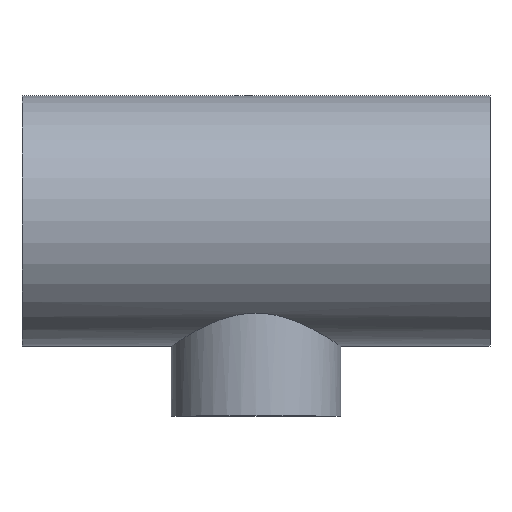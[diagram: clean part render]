
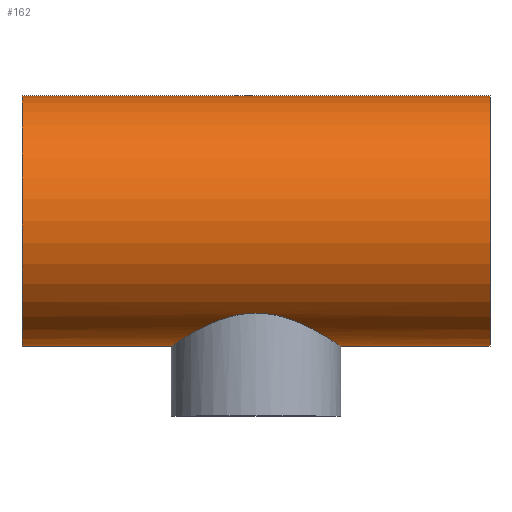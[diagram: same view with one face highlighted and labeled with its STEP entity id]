
A CAD part, top view. The second image highlights one B-rep face of the part: STEP entity #162.
In plain terms, the highlighted cylindrical face has radius 45 mm (diameter 90 mm), a full revolution.
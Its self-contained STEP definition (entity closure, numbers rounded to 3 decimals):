
#16=B_SPLINE_CURVE_WITH_KNOTS('',3,(#344,#345,#346,#347,#348,#349,#350,
#351,#352,#353,#354,#355,#356,#357,#358,#359,#360,#361,#362,#363,#364,#365,
#366,#367,#368,#369,#370,#371,#372,#373,#374,#375,#376,#377,#378,#379,#380,
#381,#382,#383,#384,#385,#386,#387,#388,#389,#390,#391,#392,#393,#394,#395,
#396,#397,#398,#399,#400,#401,#402,#403,#404,#405,#406,#407,#408,#409),
 .UNSPECIFIED.,.T.,.F.,(4,2,2,2,2,2,2,2,2,2,2,2,2,2,2,2,2,2,2,2,2,2,2,2,
2,2,2,2,2,2,2,2,4),(0.,0.603,1.206,1.809,
2.412,3.008,3.604,4.2,4.796,
5.391,5.987,6.583,7.179,7.782,
8.385,8.988,9.591,10.194,10.797,
11.4,12.003,12.599,13.195,13.791,
14.387,14.982,15.578,16.174,16.77,
17.373,17.976,18.579,19.182),
 .UNSPECIFIED.);
#32=FACE_BOUND('',#69,.T.);
#33=FACE_BOUND('',#70,.T.);
#46=FACE_OUTER_BOUND('',#68,.T.);
#68=EDGE_LOOP('',(#136));
#69=EDGE_LOOP('',(#137));
#70=EDGE_LOOP('',(#138));
#88=CIRCLE('',#187,45.);
#89=CIRCLE('',#188,45.);
#101=VERTEX_POINT('',#341);
#102=VERTEX_POINT('',#343);
#103=VERTEX_POINT('',#410);
#115=EDGE_CURVE('',#101,#101,#88,.T.);
#116=EDGE_CURVE('',#102,#102,#16,.T.);
#117=EDGE_CURVE('',#103,#103,#89,.T.);
#136=ORIENTED_EDGE('',*,*,#115,.F.);
#137=ORIENTED_EDGE('',*,*,#116,.T.);
#138=ORIENTED_EDGE('',*,*,#117,.F.);
#152=CYLINDRICAL_SURFACE('',#186,45.);
#162=ADVANCED_FACE('',(#46,#32,#33),#152,.T.);
#186=AXIS2_PLACEMENT_3D('',#340,#230,#231);
#187=AXIS2_PLACEMENT_3D('',#342,#232,#233);
#188=AXIS2_PLACEMENT_3D('',#411,#234,#235);
#230=DIRECTION('center_axis',(1.,0.,0.));
#231=DIRECTION('ref_axis',(0.,-1.,0.));
#232=DIRECTION('center_axis',(-1.,0.,0.));
#233=DIRECTION('ref_axis',(0.,-1.,0.));
#234=DIRECTION('center_axis',(1.,0.,0.));
#235=DIRECTION('ref_axis',(0.,-1.,0.));
#340=CARTESIAN_POINT('Origin',(0.,0.,0.));
#341=CARTESIAN_POINT('',(-84.,45.,0.));
#342=CARTESIAN_POINT('Origin',(-84.,0.,0.));
#343=CARTESIAN_POINT('',(0.,-33.087,30.5));
#344=CARTESIAN_POINT('Ctrl Pts',(0.,-33.087,
30.5));
#345=CARTESIAN_POINT('Ctrl Pts',(2.01,-33.087,30.5));
#346=CARTESIAN_POINT('Ctrl Pts',(4.049,-33.276,30.299));
#347=CARTESIAN_POINT('Ctrl Pts',(8.045,-33.994,29.49));
#348=CARTESIAN_POINT('Ctrl Pts',(10.002,-34.521,28.884));
#349=CARTESIAN_POINT('Ctrl Pts',(13.72,-35.776,27.314));
#350=CARTESIAN_POINT('Ctrl Pts',(15.486,-36.503,26.35));
#351=CARTESIAN_POINT('Ctrl Pts',(18.747,-38.001,24.139));
#352=CARTESIAN_POINT('Ctrl Pts',(20.241,-38.771,22.893));
#353=CARTESIAN_POINT('Ctrl Pts',(22.877,-40.211,20.257));
#354=CARTESIAN_POINT('Ctrl Pts',(24.12,-40.936,18.771));
#355=CARTESIAN_POINT('Ctrl Pts',(26.336,-42.279,15.51));
#356=CARTESIAN_POINT('Ctrl Pts',(27.308,-42.897,13.734));
#357=CARTESIAN_POINT('Ctrl Pts',(28.888,-43.919,9.992));
#358=CARTESIAN_POINT('Ctrl Pts',(29.497,-44.325,8.022));
#359=CARTESIAN_POINT('Ctrl Pts',(30.303,-44.866,4.019));
#360=CARTESIAN_POINT('Ctrl Pts',(30.5,-45.,1.986));
#361=CARTESIAN_POINT('Ctrl Pts',(30.5,-45.,-1.986));
#362=CARTESIAN_POINT('Ctrl Pts',(30.303,-44.866,-4.019));
#363=CARTESIAN_POINT('Ctrl Pts',(29.497,-44.325,-8.022));
#364=CARTESIAN_POINT('Ctrl Pts',(28.888,-43.919,-9.992));
#365=CARTESIAN_POINT('Ctrl Pts',(27.308,-42.897,-13.734));
#366=CARTESIAN_POINT('Ctrl Pts',(26.336,-42.279,-15.51));
#367=CARTESIAN_POINT('Ctrl Pts',(24.12,-40.936,-18.771));
#368=CARTESIAN_POINT('Ctrl Pts',(22.877,-40.211,-20.257));
#369=CARTESIAN_POINT('Ctrl Pts',(20.241,-38.771,-22.893));
#370=CARTESIAN_POINT('Ctrl Pts',(18.747,-38.001,-24.139));
#371=CARTESIAN_POINT('Ctrl Pts',(15.486,-36.503,-26.35));
#372=CARTESIAN_POINT('Ctrl Pts',(13.72,-35.776,-27.314));
#373=CARTESIAN_POINT('Ctrl Pts',(10.002,-34.521,-28.884));
#374=CARTESIAN_POINT('Ctrl Pts',(8.045,-33.994,-29.49));
#375=CARTESIAN_POINT('Ctrl Pts',(4.049,-33.276,-30.299));
#376=CARTESIAN_POINT('Ctrl Pts',(2.01,-33.087,-30.5));
#377=CARTESIAN_POINT('Ctrl Pts',(-2.01,-33.087,-30.5));
#378=CARTESIAN_POINT('Ctrl Pts',(-4.049,-33.276,-30.299));
#379=CARTESIAN_POINT('Ctrl Pts',(-8.045,-33.994,-29.49));
#380=CARTESIAN_POINT('Ctrl Pts',(-10.002,-34.521,-28.884));
#381=CARTESIAN_POINT('Ctrl Pts',(-13.72,-35.776,-27.314));
#382=CARTESIAN_POINT('Ctrl Pts',(-15.486,-36.503,-26.35));
#383=CARTESIAN_POINT('Ctrl Pts',(-18.747,-38.001,-24.139));
#384=CARTESIAN_POINT('Ctrl Pts',(-20.241,-38.771,-22.893));
#385=CARTESIAN_POINT('Ctrl Pts',(-22.877,-40.211,-20.257));
#386=CARTESIAN_POINT('Ctrl Pts',(-24.12,-40.936,-18.771));
#387=CARTESIAN_POINT('Ctrl Pts',(-26.336,-42.279,-15.51));
#388=CARTESIAN_POINT('Ctrl Pts',(-27.308,-42.897,-13.734));
#389=CARTESIAN_POINT('Ctrl Pts',(-28.888,-43.919,-9.992));
#390=CARTESIAN_POINT('Ctrl Pts',(-29.497,-44.325,-8.022));
#391=CARTESIAN_POINT('Ctrl Pts',(-30.303,-44.866,-4.019));
#392=CARTESIAN_POINT('Ctrl Pts',(-30.5,-45.,-1.986));
#393=CARTESIAN_POINT('Ctrl Pts',(-30.5,-45.,1.986));
#394=CARTESIAN_POINT('Ctrl Pts',(-30.303,-44.866,4.019));
#395=CARTESIAN_POINT('Ctrl Pts',(-29.497,-44.325,8.022));
#396=CARTESIAN_POINT('Ctrl Pts',(-28.888,-43.919,9.992));
#397=CARTESIAN_POINT('Ctrl Pts',(-27.308,-42.897,13.734));
#398=CARTESIAN_POINT('Ctrl Pts',(-26.336,-42.279,15.51));
#399=CARTESIAN_POINT('Ctrl Pts',(-24.12,-40.936,18.771));
#400=CARTESIAN_POINT('Ctrl Pts',(-22.877,-40.211,20.257));
#401=CARTESIAN_POINT('Ctrl Pts',(-20.241,-38.771,22.893));
#402=CARTESIAN_POINT('Ctrl Pts',(-18.747,-38.001,24.139));
#403=CARTESIAN_POINT('Ctrl Pts',(-15.486,-36.503,26.35));
#404=CARTESIAN_POINT('Ctrl Pts',(-13.72,-35.776,27.314));
#405=CARTESIAN_POINT('Ctrl Pts',(-10.002,-34.521,28.884));
#406=CARTESIAN_POINT('Ctrl Pts',(-8.045,-33.994,29.49));
#407=CARTESIAN_POINT('Ctrl Pts',(-4.049,-33.276,30.299));
#408=CARTESIAN_POINT('Ctrl Pts',(-2.01,-33.087,30.5));
#409=CARTESIAN_POINT('Ctrl Pts',(0.,-33.087,
30.5));
#410=CARTESIAN_POINT('',(84.,45.,0.));
#411=CARTESIAN_POINT('Origin',(84.,0.,0.));
